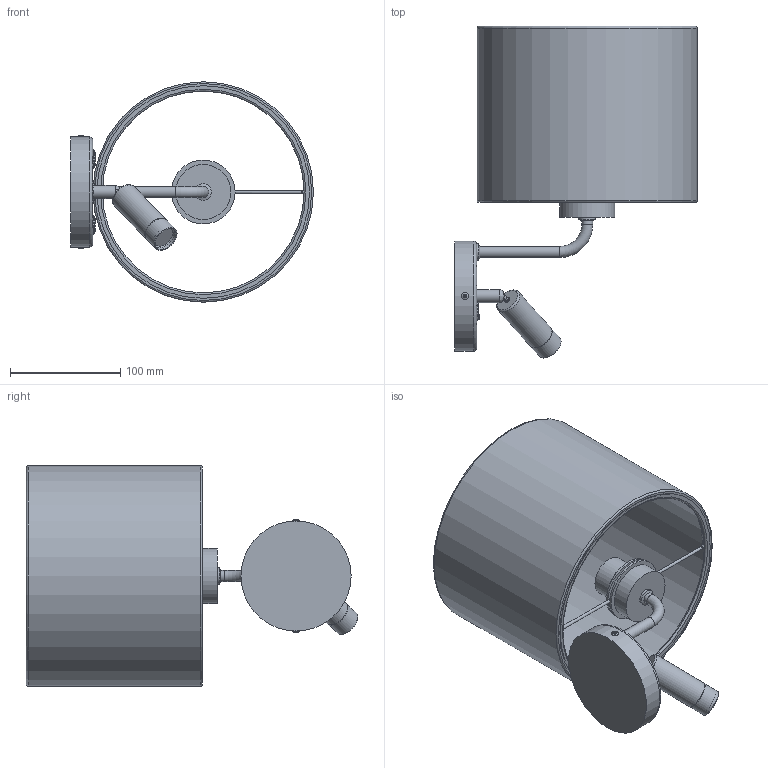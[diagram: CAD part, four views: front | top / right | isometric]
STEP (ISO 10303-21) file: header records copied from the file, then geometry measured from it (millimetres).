
FILE_DESCRIPTION(/* description */ (''),/* implementation_level */ '2;1');
FILE_NAME(/* name */ 'C:/Users/kubaw/OneDrive/Pulpit/Nowy folder/4236_RICHI v7/4236_RICHI v7.step',/* time_stamp */ '2021-03-13T10:13:37+01:00',/* author */ (''),/* organization */ (''),/* preprocessor_version */ 'ST-DEVELOPER v18.1',/* originating_system */ 'Autodesk Translation Framework v9.10.0.1330',/* authorisation */ '');
FILE_SCHEMA (('AUTOMOTIVE_DESIGN { 1 0 10303 214 3 1 1 }'));
Length unit declared in the file: millimetre
Products named in the file (4): 4236_RICHI; ŚRUBA RICHI; ŚRUBA RICHI v2(Mirror); MOCOWANIE_RICHI
Assembly tree (3 placements, depth 2):
  4236_RICHI
    ŚRUBA RICHI
    ŚRUBA RICHI v2(Mirror)
    MOCOWANIE_RICHI
Bounding box: 220.33 x 301.09 x 200 mm (x, y, z)
Volume: 764651 mm3; surface area: 281534.7 mm2
Topology: 31 solids, 31 shells, 175 faces, 320 edges, 208 vertices
Faces by surface type: plane 93, cylinder 52, torus 18, bspline 8, cone 3, sphere 1
Full cylindrical faces by diameter (mm): 3 x7, 3.5 x1, 5 x1, 6.659 x2, 10 x5, 12 x1, 15 x4, 15.2 x2, 17.2 x2, 23 x1, 24.904 x1, 25 x2, 31 x1, 36 x1, 37 x1, 40 x1, 50 x1, 56 x1, 58 x1, 100 x1, 183 x1, 186 x1, 190 x1, 197 x1, 200 x1
Entity records: 5132 total; most frequent: CARTESIAN_POINT 1444, DIRECTION 787, ORIENTED_EDGE 636, AXIS2_PLACEMENT_3D 335, EDGE_CURVE 318, VERTEX_POINT 208, EDGE_LOOP 194, FACE_OUTER_BOUND 175
